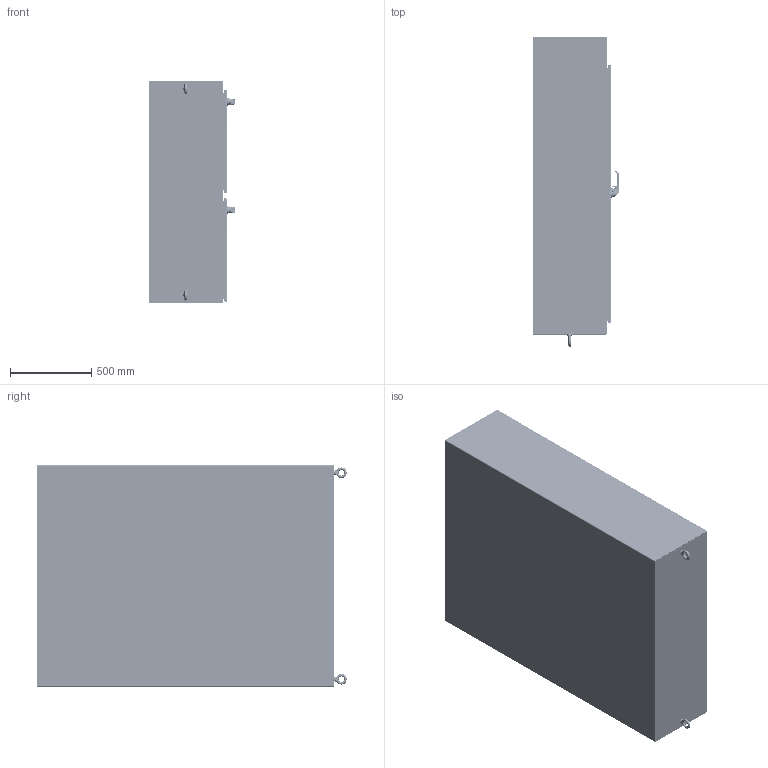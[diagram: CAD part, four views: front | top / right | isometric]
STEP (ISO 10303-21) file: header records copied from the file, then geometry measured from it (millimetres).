
FILE_DESCRIPTION((''),'2;1');
FILE_NAME('MODEL-224_ASM','2024-06-07T13:45:50',('mikek'),('SAGINAW CONTROL & ENGINEERING'),'CREO PARAMETRIC BY PTC INC, 2021284','CREO PARAMETRIC BY PTC INC, 2021284','');
FILE_SCHEMA(('AUTOMOTIVE_DESIGN { 1 0 10303 214 1 1 1 1 }'));
Length unit declared in the file: inch
Products named in the file (119): MODEL-224-TP; MODEL-224-R-SD; MODEL-224-L-SD; MODEL-224-BTM; MODEL-224-BCK; MODEL-224-SM-BRC; MODEL-224-M-DR; 100837; 111267; 100882; 100953_SCREW_MTG; 100953_PADLOCK_CATCH; 100953_SCREW_LARGE; 100953_INSERT_SHAFT; 100953_INSERT_PCH; 100953_GASKET; 100953_O-RING; 100953_BASE; 100953_SPRING; 100953_HANDLE; 100953_CAM_SHAFT; 100953_HANDLE_ASM; 100953_CAM_ADAPTER; 100953_EARTH_NUT; 100953_FLANGE_NUT; 100953_CAM_NUT; 100953_CP_INSERT; 100953_SPRING_CAM; 100953_TORSION_SPRING; 100953_SCREW_INSERT; 100953_ASM; 102237; 100030; 102237_ASM; MODEL-224-ROD-UPR-MD; 128146; 128145; 128144; 102482; MODEL-224-ROD-UPR-MD_ASM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
Assembly tree (250 placements, depth 5):
  MODEL-224_ASM
    MODEL-224-TP
    MODEL-224-R-SD
    MODEL-224-L-SD
    MODEL-224-BTM
    MODEL-224-BCK
    MODEL-224-SM-BRC  x2
    MODEL-224-M-DOOR-ASSY_ASM
      MODEL-224-M-DR
      100837  x7
      111267
      100882  x12
      100953_ASM
        100953_SCREW_MTG
        100953_PADLOCK_CATCH
        100953_SCREW_LARGE  x2
        100953_INSERT_SHAFT
        100953_INSERT_PCH
        100953_GASKET
        100953_O-RING
        100953_BASE
        100953_SPRING
        100953_HANDLE_ASM
          100953_HANDLE
          100953_CAM_SHAFT
        100953_CAM_ADAPTER
        100953_EARTH_NUT
        100953_FLANGE_NUT
        100953_CAM_NUT
        100953_CP_INSERT
        100953_SPRING_CAM
        100953_TORSION_SPRING
        100953_SCREW_INSERT
      102237_ASM
        102237
        100030  x2
      MODEL-224-ROD-UPR-MD_ASM
        MODEL-224-ROD-UPR-MD
        128146
        128145
        128144
        102482  x2
      128143  x2
      112504  x2
      MODEL-224-ROD-LWR-MD_ASM
        MODEL-224-ROD-LWR-MD
        128146
        128145
        128144
        102482  x2
      MODEL-224-PR-GSKT-M
      128258_ASM  x4
        128258
      126395  x4
      102483  x4
      101383_ASM  x4
        101383
        101383-STUD
      101221  x4
    MODEL-224-S-DOOR-ASSY_ASM
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Bounding box: 535.27 x 1903.6 x 1365.25 mm (x, y, z)
Volume: 32612327.7 mm3; surface area: 23506468.9 mm2
Topology: 279 solids, 279 shells, 26501 faces, 67244 edges, 41324 vertices
Faces by surface type: plane 9070, cylinder 7016, bspline 5809, torus 2114, cone 1355, sphere 812, extrusion 325
Entity records: 807910 total; most frequent: CARTESIAN_POINT 365523, ORIENTED_EDGE 68866, DIRECTION 62881, PRESENTATION_STYLE_ASSIGNMENT 34918, STYLED_ITEM 34866, CURVE_STYLE 34433, EDGE_CURVE 34433, AXIS2_PLACEMENT_3D 23351
